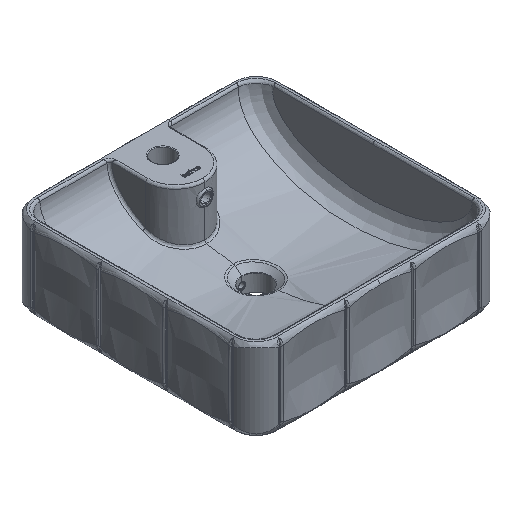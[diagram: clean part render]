
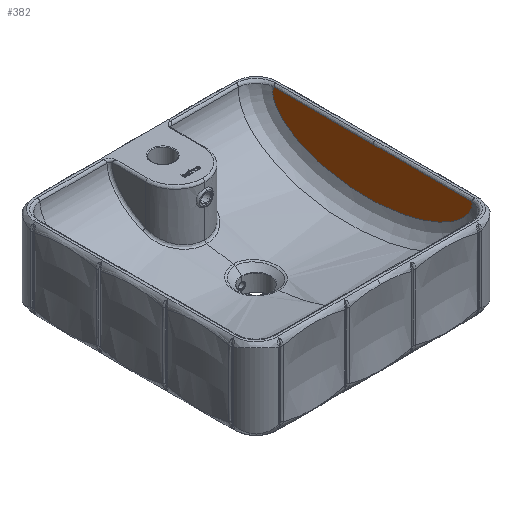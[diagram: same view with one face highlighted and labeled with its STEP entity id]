
A CAD part, isometric view. The second image highlights one B-rep face of the part: STEP entity #382.
In plain terms, the highlighted planar face has unit normal (-0.989, 0, 0.146).
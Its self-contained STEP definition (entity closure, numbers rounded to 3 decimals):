
#382=ADVANCED_FACE('',(#842),#6827,.T.);
#842=FACE_OUTER_BOUND('',#1302,.T.);
#1302=EDGE_LOOP('',(#3179,#3180,#3181));
#3179=ORIENTED_EDGE('',*,*,#4676,.F.);
#3180=ORIENTED_EDGE('',*,*,#4620,.T.);
#3181=ORIENTED_EDGE('',*,*,#4619,.F.);
#4619=EDGE_CURVE('',#6596,#6598,#5826,.T.);
#4620=EDGE_CURVE('',#6597,#6598,#5827,.T.);
#4676=EDGE_CURVE('',#6597,#6596,#5869,.T.);
#5826=B_SPLINE_CURVE_WITH_KNOTS('',1,(#79723,#79724),.UNSPECIFIED.,.F.,
 .F.,(2,2),(-541.242,-382.061),.UNSPECIFIED.);
#5827=B_SPLINE_CURVE_WITH_KNOTS('',1,(#79725,#79726),.UNSPECIFIED.,.F.,
 .F.,(2,2),(222.88,382.061),.UNSPECIFIED.);
#5869=B_SPLINE_CURVE_WITH_KNOTS('',3,(#80450,#80451,#80452,#80453,#80454,
#80455,#80456,#80457,#80458,#80459,#80460,#80461,#80462,#80463,#80464,#80465,
#80466,#80467,#80468,#80469,#80470,#80471,#80472,#80473,#80474,#80475,#80476,
#80477,#80478,#80479,#80480,#80481,#80482,#80483,#80484,#80485,#80486,#80487,
#80488,#80489,#80490,#80491,#80492,#80493,#80494,#80495,#80496,#80497,#80498,
#80499,#80500,#80501,#80502,#80503,#80504,#80505,#80506,#80507,#80508,#80509,
#80510,#80511,#80512,#80513,#80514,#80515,#80516,#80517,#80518,#80519,#80520,
#80521,#80522,#80523,#80524,#80525,#80526,#80527,#80528,#80529,#80530,#80531,
#80532,#80533,#80534,#80535,#80536,#80537,#80538,#80539,#80540,#80541,#80542),
 .UNSPECIFIED.,.F.,.F.,(4,2,2,2,2,2,2,2,2,2,2,2,2,2,2,2,2,2,2,2,2,2,2,1,
1,1,2,2,2,2,2,2,2,2,2,2,2,2,2,2,2,2,2,2,2,2,2,4),(0.,1.623,3.246,
6.492,9.738,12.984,16.23,19.476,
25.968,32.46,38.952,45.444,51.936,
58.428,64.921,77.905,90.889,103.873,
116.857,129.841,142.825,155.809,181.777,
194.762,207.746,220.73,233.714,259.682,
272.666,285.65,298.634,311.618,324.603,
337.587,350.571,357.063,363.555,370.047,
376.539,383.031,389.523,396.015,399.261,
402.507,405.753,408.999,412.245,415.491),
 .UNSPECIFIED.);
#6596=VERTEX_POINT('',#65063);
#6597=VERTEX_POINT('',#65064);
#6598=VERTEX_POINT('',#65065);
#6827=PLANE('',#7368);
#7368=AXIS2_PLACEMENT_3D('',#62737,#7495,$);
#7495=DIRECTION('',(-0.989,0.,0.147));
#62737=CARTESIAN_POINT('',(26825.586,-386.092,-9126.973));
#65063=CARTESIAN_POINT('',(26825.025,155.15,-9130.76));
#65064=CARTESIAN_POINT('',(26825.025,-163.213,-9130.76));
#65065=CARTESIAN_POINT('',(26825.025,-4.031,-9130.76));
#79723=CARTESIAN_POINT('',(26825.025,155.15,-9130.76));
#79724=CARTESIAN_POINT('',(26825.025,-4.031,-9130.76));
#79725=CARTESIAN_POINT('',(26825.025,-163.213,-9130.76));
#79726=CARTESIAN_POINT('',(26825.025,-4.031,-9130.76));
#80450=CARTESIAN_POINT('',(26825.025,-163.213,-9130.76));
#80451=CARTESIAN_POINT('',(26824.956,-163.355,-9131.223));
#80452=CARTESIAN_POINT('',(26824.887,-163.481,-9131.691));
#80453=CARTESIAN_POINT('',(26824.747,-163.695,-9132.636));
#80454=CARTESIAN_POINT('',(26824.676,-163.785,-9133.112));
#80455=CARTESIAN_POINT('',(26824.463,-163.994,-9134.549));
#80456=CARTESIAN_POINT('',(26824.32,-164.052,-9135.52));
#80457=CARTESIAN_POINT('',(26824.033,-163.998,-9137.456));
#80458=CARTESIAN_POINT('',(26823.89,-163.885,-9138.421));
#80459=CARTESIAN_POINT('',(26823.609,-163.508,-9140.321));
#80460=CARTESIAN_POINT('',(26823.47,-163.245,-9141.256));
#80461=CARTESIAN_POINT('',(26823.199,-162.603,-9143.086));
#80462=CARTESIAN_POINT('',(26823.067,-162.223,-9143.98));
#80463=CARTESIAN_POINT('',(26822.808,-161.376,-9145.726));
#80464=CARTESIAN_POINT('',(26822.682,-160.907,-9146.577));
#80465=CARTESIAN_POINT('',(26822.313,-159.398,-9149.069));
#80466=CARTESIAN_POINT('',(26822.079,-158.255,-9150.647));
#80467=CARTESIAN_POINT('',(26821.633,-155.793,-9153.659));
#80468=CARTESIAN_POINT('',(26821.421,-154.473,-9155.092));
#80469=CARTESIAN_POINT('',(26821.014,-151.709,-9157.836));
#80470=CARTESIAN_POINT('',(26820.82,-150.265,-9159.145));
#80471=CARTESIAN_POINT('',(26820.448,-147.285,-9161.657));
#80472=CARTESIAN_POINT('',(26820.27,-145.748,-9162.86));
#80473=CARTESIAN_POINT('',(26819.928,-142.605,-9165.17));
#80474=CARTESIAN_POINT('',(26819.764,-140.999,-9166.277));
#80475=CARTESIAN_POINT('',(26819.448,-137.73,-9168.409));
#80476=CARTESIAN_POINT('',(26819.296,-136.067,-9169.432));
#80477=CARTESIAN_POINT('',(26819.004,-132.696,-9171.404));
#80478=CARTESIAN_POINT('',(26818.864,-130.989,-9172.351));
#80479=CARTESIAN_POINT('',(26818.458,-125.81,-9175.091));
#80480=CARTESIAN_POINT('',(26818.208,-122.283,-9176.78));
#80481=CARTESIAN_POINT('',(26817.742,-115.127,-9179.924));
#80482=CARTESIAN_POINT('',(26817.527,-111.496,-9181.378));
#80483=CARTESIAN_POINT('',(26817.126,-104.158,-9184.084));
#80484=CARTESIAN_POINT('',(26816.941,-100.451,-9185.333));
#80485=CARTESIAN_POINT('',(26816.598,-92.978,-9187.65));
#80486=CARTESIAN_POINT('',(26816.44,-89.214,-9188.717));
#80487=CARTESIAN_POINT('',(26816.149,-81.639,-9190.683));
#80488=CARTESIAN_POINT('',(26816.016,-77.83,-9191.582));
#80489=CARTESIAN_POINT('',(26815.772,-70.177,-9193.225));
#80490=CARTESIAN_POINT('',(26815.662,-66.334,-9193.969));
#80491=CARTESIAN_POINT('',(26815.463,-58.621,-9195.31));
#80492=CARTESIAN_POINT('',(26815.375,-54.752,-9195.908));
#80493=CARTESIAN_POINT('',(26815.14,-43.115,-9197.492));
#80494=CARTESIAN_POINT('',(26815.025,-35.319,-9198.27));
#80495=CARTESIAN_POINT('',(26814.91,-23.6,-9199.046));
#80496=CARTESIAN_POINT('',(26814.853,-15.777,-9199.432));
#80497=CARTESIAN_POINT('',(26814.824,-4.031,-9199.624));
#80498=CARTESIAN_POINT('',(26814.853,7.715,-9199.432));
#80499=CARTESIAN_POINT('',(26814.91,15.537,-9199.046));
#80500=CARTESIAN_POINT('',(26815.025,27.257,-9198.269));
#80501=CARTESIAN_POINT('',(26815.14,35.053,-9197.491));
#80502=CARTESIAN_POINT('',(26815.375,46.689,-9195.908));
#80503=CARTESIAN_POINT('',(26815.463,50.559,-9195.31));
#80504=CARTESIAN_POINT('',(26815.662,58.271,-9193.969));
#80505=CARTESIAN_POINT('',(26815.772,62.114,-9193.225));
#80506=CARTESIAN_POINT('',(26816.016,69.767,-9191.582));
#80507=CARTESIAN_POINT('',(26816.149,73.576,-9190.683));
#80508=CARTESIAN_POINT('',(26816.44,81.151,-9188.717));
#80509=CARTESIAN_POINT('',(26816.598,84.916,-9187.65));
#80510=CARTESIAN_POINT('',(26816.941,92.388,-9185.334));
#80511=CARTESIAN_POINT('',(26817.126,96.096,-9184.084));
#80512=CARTESIAN_POINT('',(26817.527,103.433,-9181.378));
#80513=CARTESIAN_POINT('',(26817.742,107.064,-9179.924));
#80514=CARTESIAN_POINT('',(26818.208,114.221,-9176.78));
#80515=CARTESIAN_POINT('',(26818.458,117.747,-9175.091));
#80516=CARTESIAN_POINT('',(26818.864,122.926,-9172.351));
#80517=CARTESIAN_POINT('',(26819.004,124.634,-9171.404));
#80518=CARTESIAN_POINT('',(26819.296,128.004,-9169.432));
#80519=CARTESIAN_POINT('',(26819.448,129.667,-9168.409));
#80520=CARTESIAN_POINT('',(26819.764,132.936,-9166.277));
#80521=CARTESIAN_POINT('',(26819.928,134.543,-9165.17));
#80522=CARTESIAN_POINT('',(26820.27,137.686,-9162.86));
#80523=CARTESIAN_POINT('',(26820.448,139.222,-9161.658));
#80524=CARTESIAN_POINT('',(26820.82,142.202,-9159.146));
#80525=CARTESIAN_POINT('',(26821.014,143.647,-9157.836));
#80526=CARTESIAN_POINT('',(26821.421,146.41,-9155.092));
#80527=CARTESIAN_POINT('',(26821.633,147.73,-9153.659));
#80528=CARTESIAN_POINT('',(26822.079,150.192,-9150.647));
#80529=CARTESIAN_POINT('',(26822.313,151.335,-9149.07));
#80530=CARTESIAN_POINT('',(26822.682,152.845,-9146.577));
#80531=CARTESIAN_POINT('',(26822.808,153.313,-9145.726));
#80532=CARTESIAN_POINT('',(26823.067,154.161,-9143.98));
#80533=CARTESIAN_POINT('',(26823.199,154.54,-9143.086));
#80534=CARTESIAN_POINT('',(26823.47,155.183,-9141.256));
#80535=CARTESIAN_POINT('',(26823.609,155.445,-9140.321));
#80536=CARTESIAN_POINT('',(26823.89,155.822,-9138.421));
#80537=CARTESIAN_POINT('',(26824.033,155.935,-9137.456));
#80538=CARTESIAN_POINT('',(26824.32,155.989,-9135.52));
#80539=CARTESIAN_POINT('',(26824.463,155.931,-9134.55));
#80540=CARTESIAN_POINT('',(26824.747,155.652,-9132.633));
#80541=CARTESIAN_POINT('',(26824.888,155.435,-9131.686));
#80542=CARTESIAN_POINT('',(26825.025,155.15,-9130.76));
